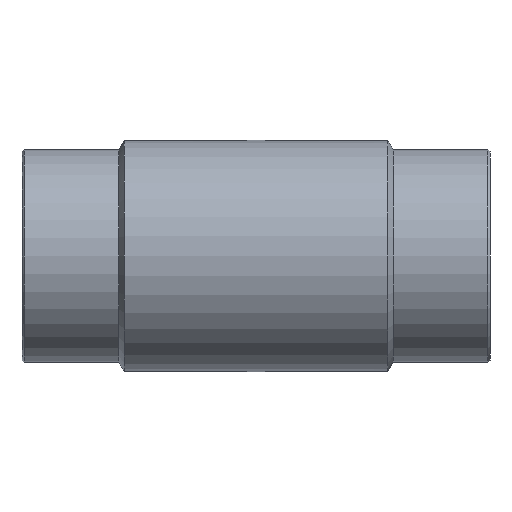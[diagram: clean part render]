
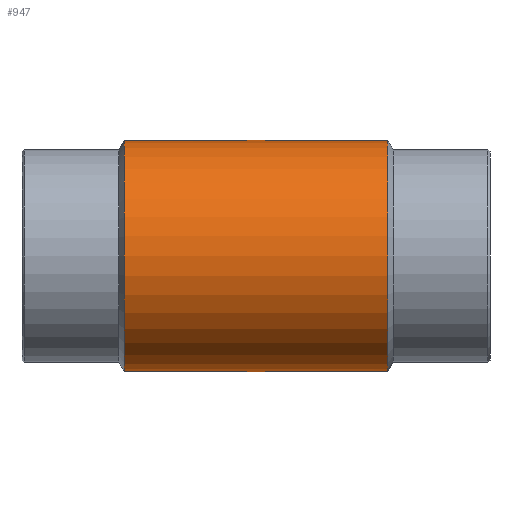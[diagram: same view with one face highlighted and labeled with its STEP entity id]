
A CAD part, front view. The second image highlights one B-rep face of the part: STEP entity #947.
In plain terms, the highlighted cylindrical face has radius 217.5 mm (diameter 435 mm), a partial arc.
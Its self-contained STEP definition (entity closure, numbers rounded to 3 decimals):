
#72=ELLIPSE('',#1044,318.375,217.5);
#74=ELLIPSE('',#1049,318.375,217.5);
#77=ELLIPSE('',#1058,318.375,217.5);
#79=ELLIPSE('',#1060,318.375,217.5);
#104=LINE('',#1631,#152);
#109=LINE('',#1760,#157);
#111=LINE('',#1847,#159);
#112=LINE('',#1848,#160);
#152=VECTOR('',#1252,1000.);
#157=VECTOR('',#1279,1000.);
#159=VECTOR('',#1293,1000.);
#160=VECTOR('',#1294,1000.);
#196=CYLINDRICAL_SURFACE('',#1063,217.5);
#375=ORIENTED_EDGE('',*,*,#569,.T.);
#376=ORIENTED_EDGE('',*,*,#572,.T.);
#377=ORIENTED_EDGE('',*,*,#527,.F.);
#378=ORIENTED_EDGE('',*,*,#573,.F.);
#379=ORIENTED_EDGE('',*,*,#550,.T.);
#380=ORIENTED_EDGE('',*,*,#541,.T.);
#381=ORIENTED_EDGE('',*,*,#543,.F.);
#382=ORIENTED_EDGE('',*,*,#525,.T.);
#383=ORIENTED_EDGE('',*,*,#565,.T.);
#384=ORIENTED_EDGE('',*,*,#566,.T.);
#525=EDGE_CURVE('',#645,#644,#714,.T.);
#527=EDGE_CURVE('',#646,#647,#715,.T.);
#541=EDGE_CURVE('',#657,#655,#72,.T.);
#543=EDGE_CURVE('',#645,#655,#104,.T.);
#550=EDGE_CURVE('',#662,#657,#74,.F.);
#565=EDGE_CURVE('',#644,#671,#109,.T.);
#566=EDGE_CURVE('',#671,#672,#77,.T.);
#569=EDGE_CURVE('',#672,#673,#79,.F.);
#572=EDGE_CURVE('',#673,#647,#111,.T.);
#573=EDGE_CURVE('',#662,#646,#112,.T.);
#644=VERTEX_POINT('',#1519);
#645=VERTEX_POINT('',#1521);
#646=VERTEX_POINT('',#1528);
#647=VERTEX_POINT('',#1529);
#655=VERTEX_POINT('',#1625);
#657=VERTEX_POINT('',#1628);
#662=VERTEX_POINT('',#1691);
#671=VERTEX_POINT('',#1759);
#672=VERTEX_POINT('',#1795);
#673=VERTEX_POINT('',#1840);
#714=CIRCLE('',#1035,217.5);
#715=CIRCLE('',#1037,217.5);
#786=EDGE_LOOP('',(#375,#376,#377,#378,#379,#380,#381,#382,#383,#384));
#862=FACE_BOUND('',#786,.T.);
#947=ADVANCED_FACE('',(#862),#196,.T.);
#1035=AXIS2_PLACEMENT_3D('',#1520,#1227,#1228);
#1037=AXIS2_PLACEMENT_3D('',#1527,#1231,#1232);
#1044=AXIS2_PLACEMENT_3D('',#1627,#1246,#1247);
#1049=AXIS2_PLACEMENT_3D('',#1690,#1258,#1259);
#1058=AXIS2_PLACEMENT_3D('',#1794,#1280,#1281);
#1060=AXIS2_PLACEMENT_3D('',#1842,#1284,#1285);
#1063=AXIS2_PLACEMENT_3D('',#1846,#1291,#1292);
#1227=DIRECTION('',(-1.,0.,0.));
#1228=DIRECTION('',(0.,0.,1.));
#1231=DIRECTION('',(-1.,0.,0.));
#1232=DIRECTION('',(0.,0.,1.));
#1246=DIRECTION('',(0.683,-0.73,0.));
#1247=DIRECTION('',(-0.73,-0.683,0.));
#1252=DIRECTION('',(-1.,0.,0.));
#1258=DIRECTION('',(0.683,0.73,0.));
#1259=DIRECTION('',(-0.73,0.683,0.));
#1279=DIRECTION('',(-1.,0.,0.));
#1280=DIRECTION('',(0.683,-0.73,0.));
#1281=DIRECTION('',(-0.73,-0.683,0.));
#1284=DIRECTION('',(0.683,0.73,0.));
#1285=DIRECTION('',(-0.73,0.683,0.));
#1291=DIRECTION('',(-1.,0.,0.));
#1292=DIRECTION('',(0.,0.,1.));
#1293=DIRECTION('',(-1.,0.,0.));
#1294=DIRECTION('',(-1.,0.,0.));
#1519=CARTESIAN_POINT('',(247.5,216.982,15.));
#1520=CARTESIAN_POINT('',(247.5,0.,0.));
#1521=CARTESIAN_POINT('',(247.5,216.982,-15.));
#1527=CARTESIAN_POINT('',(-247.5,0.,0.));
#1528=CARTESIAN_POINT('',(-247.5,216.982,-15.));
#1529=CARTESIAN_POINT('',(-247.5,216.982,15.));
#1625=CARTESIAN_POINT('',(231.946,216.982,-15.));
#1627=CARTESIAN_POINT('',(0.,0.,0.));
#1628=CARTESIAN_POINT('',(0.,0.,-217.5));
#1631=CARTESIAN_POINT('',(-60.,216.982,-15.));
#1690=CARTESIAN_POINT('',(0.,0.,0.));
#1691=CARTESIAN_POINT('',(-231.946,216.982,-15.));
#1759=CARTESIAN_POINT('',(231.946,216.982,15.));
#1760=CARTESIAN_POINT('',(-60.,216.982,15.));
#1794=CARTESIAN_POINT('',(0.,0.,0.));
#1795=CARTESIAN_POINT('',(0.,0.,217.5));
#1840=CARTESIAN_POINT('',(-231.946,216.982,15.));
#1842=CARTESIAN_POINT('',(0.,0.,0.));
#1846=CARTESIAN_POINT('',(-60.,0.,0.));
#1847=CARTESIAN_POINT('',(-60.,216.982,15.));
#1848=CARTESIAN_POINT('',(-60.,216.982,-15.));
